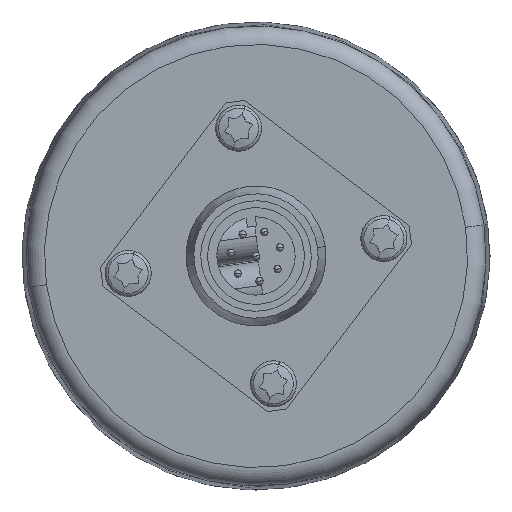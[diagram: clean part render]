
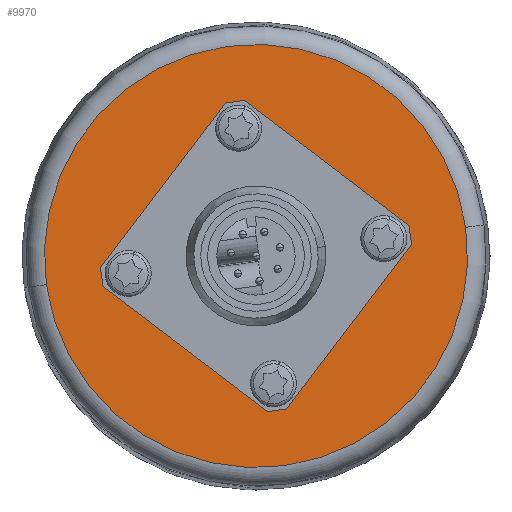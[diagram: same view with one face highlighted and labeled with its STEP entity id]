
A CAD part, left-side view. The second image highlights one B-rep face of the part: STEP entity #9970.
In plain terms, the highlighted planar face has unit normal (-1, 0, 0).
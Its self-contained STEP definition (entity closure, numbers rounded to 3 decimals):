
#1258 = CARTESIAN_POINT ( 'NONE',  ( -21., 13.872, -1.894 ) ) ;
#1301 = DIRECTION ( 'NONE',  ( 0., 0.991, -0.135 ) ) ;
#1302 = DIRECTION ( 'NONE',  ( -1., 0., 0. ) ) ;
#1303 = CARTESIAN_POINT ( 'NONE',  ( -21., 0., 0. ) ) ;
#1304 = AXIS2_PLACEMENT_3D ( 'NONE', #1303, #1302, #1301 ) ;
#1305 = CIRCLE ( 'NONE', #1304, 22.972 ) ;
#1307 = CARTESIAN_POINT ( 'NONE',  ( -21., 12.496, -1.706 ) ) ;
#1308 = CARTESIAN_POINT ( 'NONE',  ( -21., 15.248, -2.081 ) ) ;
#1309 = DIRECTION ( 'NONE',  ( 0., 0.991, -0.135 ) ) ;
#1310 = DIRECTION ( 'NONE',  ( 1., 0., 0. ) ) ;
#1311 = CARTESIAN_POINT ( 'NONE',  ( -21., 13.872, -1.894 ) ) ;
#1312 = AXIS2_PLACEMENT_3D ( 'NONE', #1311, #1310, #1309 ) ;
#1313 = CIRCLE ( 'NONE', #1312, 1.389 ) ;
#1314 = DIRECTION ( 'NONE',  ( 0., 0.991, -0.135 ) ) ;
#1315 = DIRECTION ( 'NONE',  ( 1., 0., 0. ) ) ;
#1316 = AXIS2_PLACEMENT_3D ( 'NONE', #1258, #1315, #1314 ) ;
#1317 = CIRCLE ( 'NONE', #1316, 1.389 ) ;
#1318 = PLANE ( 'NONE',  #1371 ) ;
#1333 = FACE_BOUND ( 'NONE', #10256, .T. ) ;
#1334 = FACE_OUTER_BOUND ( 'NONE', #10258, .T. ) ;
#1335 = FACE_BOUND ( 'NONE', #10274, .T. ) ;
#1336 = FACE_BOUND ( 'NONE', #10261, .T. ) ;
#1337 = FACE_BOUND ( 'NONE', #9957, .T. ) ;
#1342 = FACE_BOUND ( 'NONE', #10137, .T. ) ;
#1368 = DIRECTION ( 'NONE',  ( 0., 0.991, -0.135 ) ) ;
#1369 = DIRECTION ( 'NONE',  ( 1., 0., 0. ) ) ;
#1370 = CARTESIAN_POINT ( 'NONE',  ( -21., 0., 0. ) ) ;
#1371 = AXIS2_PLACEMENT_3D ( 'NONE', #1370, #1369, #1368 ) ;
#1431 = CIRCLE ( 'NONE', #1489, 1.389 ) ;
#1486 = DIRECTION ( 'NONE',  ( 0., 0.991, -0.135 ) ) ;
#1487 = DIRECTION ( 'NONE',  ( 1., 0., 0. ) ) ;
#1488 = CARTESIAN_POINT ( 'NONE',  ( -21., -1.894, -13.872 ) ) ;
#1489 = AXIS2_PLACEMENT_3D ( 'NONE', #1488, #1487, #1486 ) ;
#1854 = CARTESIAN_POINT ( 'NONE',  ( -21., -0.518, -14.06 ) ) ;
#1856 = CARTESIAN_POINT ( 'NONE',  ( -21., -3.269, -13.684 ) ) ;
#2234 = DIRECTION ( 'NONE',  ( 0., 0.991, -0.135 ) ) ;
#2235 = DIRECTION ( 'NONE',  ( 1., 0., 0. ) ) ;
#2236 = CARTESIAN_POINT ( 'NONE',  ( -21., 1.894, 13.872 ) ) ;
#2237 = AXIS2_PLACEMENT_3D ( 'NONE', #2236, #2235, #2234 ) ;
#2238 = CIRCLE ( 'NONE', #2237, 1.389 ) ;
#2239 = CARTESIAN_POINT ( 'NONE',  ( -21., 0.518, 14.06 ) ) ;
#2240 = DIRECTION ( 'NONE',  ( 0., 0.991, -0.135 ) ) ;
#2241 = DIRECTION ( 'NONE',  ( 1., 0., 0. ) ) ;
#2242 = CARTESIAN_POINT ( 'NONE',  ( -21., -13.872, 1.894 ) ) ;
#2243 = AXIS2_PLACEMENT_3D ( 'NONE', #2242, #2241, #2240 ) ;
#2244 = CIRCLE ( 'NONE', #2243, 1.389 ) ;
#2245 = CARTESIAN_POINT ( 'NONE',  ( -21., 3.269, 13.684 ) ) ;
#2277 = DIRECTION ( 'NONE',  ( 0., 0.991, -0.135 ) ) ;
#2278 = DIRECTION ( 'NONE',  ( 1., 0., 0. ) ) ;
#2279 = CARTESIAN_POINT ( 'NONE',  ( -21., 1.894, 13.872 ) ) ;
#2280 = AXIS2_PLACEMENT_3D ( 'NONE', #2279, #2278, #2277 ) ;
#2281 = CIRCLE ( 'NONE', #2280, 1.389 ) ;
#2282 = DIRECTION ( 'NONE',  ( 0., 0.991, -0.135 ) ) ;
#2283 = DIRECTION ( 'NONE',  ( 1., 0., 0. ) ) ;
#2284 = CARTESIAN_POINT ( 'NONE',  ( -21., -1.894, -13.872 ) ) ;
#2285 = AXIS2_PLACEMENT_3D ( 'NONE', #2284, #2283, #2282 ) ;
#2286 = CIRCLE ( 'NONE', #2285, 1.389 ) ;
#2287 = CARTESIAN_POINT ( 'NONE',  ( -21., -15.248, 2.081 ) ) ;
#2288 = CARTESIAN_POINT ( 'NONE',  ( -21., -12.496, 1.706 ) ) ;
#2289 = DIRECTION ( 'NONE',  ( 0., 0.991, -0.135 ) ) ;
#2290 = DIRECTION ( 'NONE',  ( 1., 0., 0. ) ) ;
#2291 = CARTESIAN_POINT ( 'NONE',  ( -21., -13.872, 1.894 ) ) ;
#2292 = AXIS2_PLACEMENT_3D ( 'NONE', #2291, #2290, #2289 ) ;
#2293 = CIRCLE ( 'NONE', #2292, 1.389 ) ;
#2496 = CARTESIAN_POINT ( 'NONE',  ( -21., 11.394, -1.555 ) ) ;
#2497 = DIRECTION ( 'NONE',  ( 0., -0.991, 0.135 ) ) ;
#2498 = DIRECTION ( 'NONE',  ( -1., 0., 0. ) ) ;
#2499 = CARTESIAN_POINT ( 'NONE',  ( -21., 0., 0. ) ) ;
#2500 = AXIS2_PLACEMENT_3D ( 'NONE', #2499, #2498, #2497 ) ;
#2501 = CIRCLE ( 'NONE', #2500, 11.5 ) ;
#2508 = DIRECTION ( 'NONE',  ( 0., -0.991, 0.135 ) ) ;
#2509 = DIRECTION ( 'NONE',  ( -1., 0., 0. ) ) ;
#2510 = CARTESIAN_POINT ( 'NONE',  ( -21., 0., 0. ) ) ;
#2511 = AXIS2_PLACEMENT_3D ( 'NONE', #2510, #2509, #2508 ) ;
#2512 = CIRCLE ( 'NONE', #2511, 11.5 ) ;
#2521 = CARTESIAN_POINT ( 'NONE',  ( -21., -11.394, 1.555 ) ) ;
#3697 = DIRECTION ( 'NONE',  ( -1., 0., 0. ) ) ;
#3701 = DIRECTION ( 'NONE',  ( 0., 0.991, -0.135 ) ) ;
#4140 = CARTESIAN_POINT ( 'NONE',  ( -21., 0., 0. ) ) ;
#4141 = AXIS2_PLACEMENT_3D ( 'NONE', #4140, #3697, #3701 ) ;
#4142 = CIRCLE ( 'NONE', #4141, 22.972 ) ;
#4291 = CARTESIAN_POINT ( 'NONE',  ( -21., -22.761, 3.107 ) ) ;
#4658 = CARTESIAN_POINT ( 'NONE',  ( -21., 22.761, -3.107 ) ) ;
#9063 = EDGE_CURVE ( 'NONE', #9064, #9207, #4142, .T. ) ;
#9064 = VERTEX_POINT ( 'NONE', #4291 ) ;
#9207 = VERTEX_POINT ( 'NONE', #4658 ) ;
#9953 = ORIENTED_EDGE ( 'NONE', *, *, #10270, .T. ) ;
#9956 = EDGE_CURVE ( 'NONE', #9961, #9960, #1317, .T. ) ;
#9957 = EDGE_LOOP ( 'NONE', ( #9965, #9953 ) ) ;
#9959 = EDGE_CURVE ( 'NONE', #9960, #9961, #1313, .T. ) ;
#9960 = VERTEX_POINT ( 'NONE', #1308 ) ;
#9961 = VERTEX_POINT ( 'NONE', #1307 ) ;
#9964 = EDGE_CURVE ( 'NONE', #9207, #9064, #1305, .T. ) ;
#9965 = ORIENTED_EDGE ( 'NONE', *, *, #10023, .T. ) ;
#9968 = ORIENTED_EDGE ( 'NONE', *, *, #9959, .T. ) ;
#9969 = ORIENTED_EDGE ( 'NONE', *, *, #9956, .T. ) ;
#9970 = ADVANCED_FACE ( 'NONE', ( #1342, #1337, #1336, #1335, #1334, #1333 ), #1318, .F. ) ;
#10023 = EDGE_CURVE ( 'NONE', #10141, #10138, #1431, .T. ) ;
#10137 = EDGE_LOOP ( 'NONE', ( #9968, #9969 ) ) ;
#10138 = VERTEX_POINT ( 'NONE', #1856 ) ;
#10141 = VERTEX_POINT ( 'NONE', #1854 ) ;
#10256 = EDGE_LOOP ( 'NONE', ( #10470, #10340 ) ) ;
#10257 = ORIENTED_EDGE ( 'NONE', *, *, #10267, .T. ) ;
#10258 = EDGE_LOOP ( 'NONE', ( #10259, #10264 ) ) ;
#10259 = ORIENTED_EDGE ( 'NONE', *, *, #9964, .T. ) ;
#10260 = VERTEX_POINT ( 'NONE', #2245 ) ;
#10261 = EDGE_LOOP ( 'NONE', ( #10271, #10273 ) ) ;
#10262 = ORIENTED_EDGE ( 'NONE', *, *, #10263, .T. ) ;
#10263 = EDGE_CURVE ( 'NONE', #10269, #10268, #2244, .T. ) ;
#10264 = ORIENTED_EDGE ( 'NONE', *, *, #9063, .T. ) ;
#10265 = VERTEX_POINT ( 'NONE', #2239 ) ;
#10266 = EDGE_CURVE ( 'NONE', #10265, #10260, #2238, .T. ) ;
#10267 = EDGE_CURVE ( 'NONE', #10268, #10269, #2293, .T. ) ;
#10268 = VERTEX_POINT ( 'NONE', #2288 ) ;
#10269 = VERTEX_POINT ( 'NONE', #2287 ) ;
#10270 = EDGE_CURVE ( 'NONE', #10138, #10141, #2286, .T. ) ;
#10271 = ORIENTED_EDGE ( 'NONE', *, *, #10272, .T. ) ;
#10272 = EDGE_CURVE ( 'NONE', #10260, #10265, #2281, .T. ) ;
#10273 = ORIENTED_EDGE ( 'NONE', *, *, #10266, .T. ) ;
#10274 = EDGE_LOOP ( 'NONE', ( #10257, #10262 ) ) ;
#10336 = VERTEX_POINT ( 'NONE', #2521 ) ;
#10340 = ORIENTED_EDGE ( 'NONE', *, *, #10341, .F. ) ;
#10341 = EDGE_CURVE ( 'NONE', #10346, #10336, #2512, .T. ) ;
#10345 = EDGE_CURVE ( 'NONE', #10336, #10346, #2501, .T. ) ;
#10346 = VERTEX_POINT ( 'NONE', #2496 ) ;
#10470 = ORIENTED_EDGE ( 'NONE', *, *, #10345, .F. ) ;
